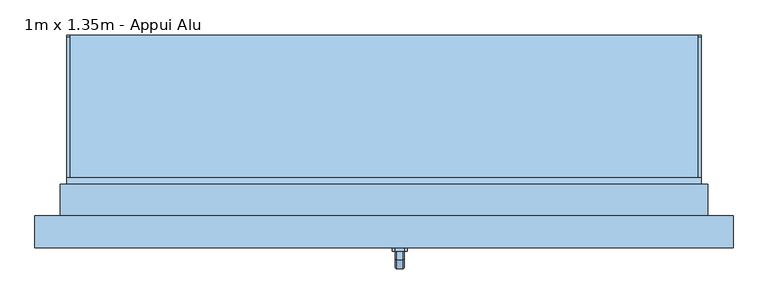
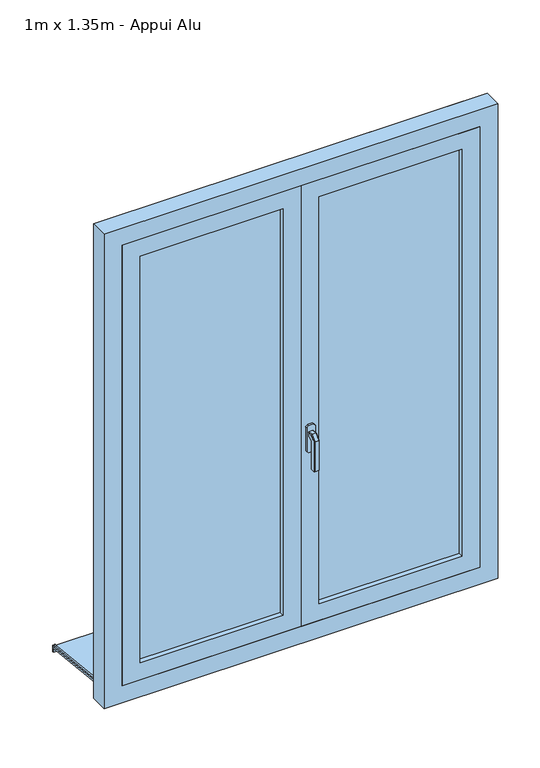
"""IFC4 building model written with IfcOpenShell, lengths in millimetres: window geometry, 2 Vantaux - Droits : 1m x 1.35m - Appui Alu."""

from ifc_helpers import new_model, si_unit, point, frame, frame_2d, origin, place, context, project, spatial, polyline, circle_curve, trimmed, segment, composite_curve, outline, extrude, faceted_brep, source, transform, mapped, element, save


def window_1m_x_1_35m_appui_alu_10ebf275(model_context):
    return source(origin(), model_context, "Body", "SolidModel", [
        faceted_brep([(30.6460097, -166.0, 1422.0339292), (32.0339292, -166.0, 1420.6460097), (32.0339292, -166.0, 1409.3323012), (30.6676988, -166.0, 1407.9660708), (19.3323012, -166.0, 1407.9660708), (17.9660708, -166.0, 1409.3323012), (17.9660708, -166.0, 1420.6460097), (19.3539903, -166.0, 1422.0339292), (30.6460097, -178.9135489, 1422.0339292), (32.0339292, -178.3386538, 1420.6460097), (32.0339292, -191.6460097, 1407.3386538), (32.0339292, -191.6460097, 1320.0), (32.0339292, -180.3323012, 1320.0), (32.0339292, -180.3323012, 1402.6523623), (32.0339292, -173.6523623, 1409.3323012), (30.6676988, -173.0864511, 1407.9660708), (19.3323012, -173.0864511, 1407.9660708), (17.9660708, -173.6523623, 1409.3323012), (17.9660708, -180.3323012, 1402.6523623), (17.9660708, -180.3323012, 1320.0), (17.9660708, -191.6460097, 1320.0), (17.9660708, -191.6460097, 1407.3386538), (17.9660708, -178.3386538, 1420.6460097), (19.3539903, -178.9135489, 1422.0339292), (30.6460097, -193.0339292, 1407.9135489), (30.6676988, -178.9660708, 1402.0864511), (19.3323012, -178.9660708, 1402.0864511), (19.3539903, -193.0339292, 1407.9135489), (30.6460097, -193.0339292, 1320.0), (19.3539903, -193.0339292, 1320.0), (19.3323012, -178.9660708, 1320.0), (30.6676988, -178.9660708, 1320.0)], [[[0, 1, 2, 3, 4, 5, 6, 7]], [[1, 0, 8, 9]], [[2, 1, 9, 10, 11, 12, 13, 14]], [[3, 2, 14, 15]], [[4, 3, 15, 16]], [[5, 4, 16, 17]], [[6, 5, 17, 18, 19, 20, 21, 22]], [[7, 6, 22, 23]], [[0, 7, 23, 8]], [[9, 8, 24, 10]], [[15, 14, 13, 25]], [[16, 15, 25, 26]], [[17, 16, 26, 18]], [[23, 22, 21, 27]], [[8, 23, 27, 24]], [[28, 29, 20, 19, 30, 31, 12, 11]], [[10, 24, 28, 11]], [[25, 13, 12, 31]], [[26, 25, 31, 30]], [[18, 26, 30, 19]], [[27, 21, 20, 29]], [[24, 27, 29, 28]]]),
        extrude(outline(polyline([(1440.0, 32.0), (1440.0, 18.0), (1435.0, 13.0), (1365.0, 13.0), (1360.0, 18.0), (1360.0, 32.0), (1365.0, 37.0), (1435.0, 37.0), (1440.0, 32.0)])), frame((0.0, -166.0, 0.0), z_axis=(0.0, 1.0, 0.0), x_axis=(0.0, 0.0, 1.0)), (0.0, 0.0, 1.0), 6.0),
        extrude(outline(polyline([(175.0, 763.4536318), (175.0, 747.8979153), (170.0, 748.4234365), (170.0, 758.7239412), (-80.0, 785.0), (-80.0, 800.0), (-75.0, 800.0), (-75.0, 789.7296906), (175.0, 763.4536318)])), frame((-500.0, 0.0, 0.0), z_axis=(1.0, 0.0, 0.0), x_axis=(0.0, 1.0, 0.0)), (0.0, 0.0, 1.0), 1000.0),
        extrude(outline(composite_curve([segment(polyline([(175.0, 763.4536318), (-75.0, 789.7296906), (-75.0, 794.757232), (171.4181139, 768.8576446)]), True, "CONTINUOUS"), segment(trimmed(circle_curve(frame_2d((171.0, 764.879557)), 4.0), [point((171.4181139, 768.8576446))], [point((175.0, 764.879557))], False, "CARTESIAN"), True, "CONTINUOUS"), segment(polyline([(175.0, 764.879557), (175.0, 763.4536318)]), True, "CONTINUOUS")], self_intersect=False)), frame((-500.0, 0.0, 0.0), z_axis=(1.0, 0.0, 0.0), x_axis=(0.0, 1.0, 0.0)), (0.0, 0.0, 1.0), 5.0),
        extrude(outline(composite_curve([segment(polyline([(175.0, 763.4536318), (-75.0, 789.7296906), (-75.0, 794.757232), (171.4181139, 768.8576446)]), True, "CONTINUOUS"), segment(trimmed(circle_curve(frame_2d((171.0, 764.879557)), 4.0), [point((171.4181139, 768.8576446))], [point((175.0, 764.879557))], False, "CARTESIAN"), True, "CONTINUOUS"), segment(polyline([(175.0, 764.879557), (175.0, 763.4536318)]), True, "CONTINUOUS")], self_intersect=False)), frame((495.0, 0.0, 0.0), z_axis=(1.0, 0.0, 0.0), x_axis=(0.0, 1.0, 0.0)), (0.0, 0.0, 1.0), 5.0),
        extrude(outline(polyline([(850.0, 0.0), (2150.0, 0.0), (2150.0, -500.0), (850.0, -500.0), (850.0, 0.0)]), holes=[polyline([(900.0, -450.0), (2100.0, -450.0), (2100.0, -50.0), (900.0, -50.0), (900.0, -450.0)])]), frame((0.0, -160.0, 0.0), z_axis=(0.0, 1.0, 0.0), x_axis=(0.0, 0.0, 1.0)), (0.0, 0.0, 1.0), 40.0),
        extrude(outline(polyline([(50.0, -134.0), (450.0, -134.0), (450.0, -146.0), (50.0, -146.0), (50.0, -134.0)])), frame((0.0, 0.0, 900.0), z_axis=(0.0, 0.0, 1.0), x_axis=(1.0, 0.0, 0.0)), (0.0, 0.0, 1.0), 1200.0),
        extrude(outline(polyline([(-450.0, -134.0), (-50.0, -134.0), (-50.0, -146.0), (-450.0, -146.0), (-450.0, -134.0)])), frame((0.0, 0.0, 900.0), z_axis=(0.0, 0.0, 1.0), x_axis=(1.0, 0.0, 0.0)), (0.0, 0.0, 1.0), 1200.0),
        extrude(outline(polyline([(850.0, 500.0), (2150.0, 500.0), (2150.0, 0.0), (850.0, 0.0), (850.0, 500.0)]), holes=[polyline([(900.0, 50.0), (2100.0, 50.0), (2100.0, 450.0), (900.0, 450.0), (900.0, 50.0)])]), frame((0.0, -160.0, 0.0), z_axis=(0.0, 1.0, 0.0), x_axis=(0.0, 0.0, 1.0)), (0.0, 0.0, 1.0), 40.0),
        faceted_brep([(-550.0, -160.0, 800.0), (-550.0, -110.0, 800.0), (-500.0, -110.0, 800.0), (-500.0, -60.0, 800.0), (500.0, -60.0, 800.0), (500.0, -110.0, 800.0), (550.0, -110.0, 800.0), (550.0, -160.0, 800.0), (-550.0, -160.0, 2200.0), (-550.0, -110.0, 2200.0), (550.0, -110.0, 2200.0), (500.0, -110.0, 839.3761425), (-500.0, -110.0, 839.3761425), (-485.0, -110.0, 2135.0), (-485.0, -110.0, 865.0), (485.0, -110.0, 865.0), (485.0, -110.0, 2135.0), (-500.0, -50.0, 823.2991909), (-500.0, -50.0, 795.0), (-500.0, -60.0, 795.0), (500.0, -60.0, 795.0), (500.0, -50.0, 795.0), (500.0, -50.0, 823.2991909), (550.0, -160.0, 2200.0), (500.0, -160.0, 2150.0), (500.0, -160.0, 850.0), (-500.0, -160.0, 850.0), (-500.0, -160.0, 2150.0), (-485.0, -120.0, 2135.0), (-485.0, -120.0, 865.0), (485.0, -120.0, 865.0), (485.0, -120.0, 2135.0), (500.0, -120.0, 2150.0), (-500.0, -120.0, 2150.0), (-500.0, -120.0, 850.0), (500.0, -120.0, 850.0)], [[[0, 1, 2, 3, 4, 5, 6, 7]], [[1, 0, 8, 9]], [[1, 9, 10, 6, 5, 11, 12, 2], [13, 14, 15, 16]], [[12, 17, 18, 19, 3, 2]], [[3, 19, 20, 4]], [[4, 20, 21, 22, 11, 5]], [[6, 10, 23, 7]], [[0, 7, 23, 8], [24, 25, 26, 27]], [[13, 28, 29, 14]], [[29, 30, 15, 14]], [[31, 16, 15, 30]], [[17, 12, 11, 22]], [[32, 33, 34, 35], [28, 31, 30, 29]], [[34, 33, 27, 26]], [[26, 25, 35, 34]], [[24, 32, 35, 25]], [[18, 17, 22, 21]], [[19, 18, 21, 20]], [[13, 16, 31, 28]], [[33, 32, 24, 27]], [[10, 9, 8, 23]]]),
        extrude(outline(polyline([(800.0, -510.0), (800.0, -500.0), (2150.0, -500.0), (2150.0, 500.0), (800.0, 500.0), (800.0, 510.0), (2160.0, 510.0), (2160.0, -510.0), (800.0, -510.0)])), frame((0.0, -110.0, 0.0), z_axis=(0.0, 1.0, 0.0), x_axis=(0.0, 0.0, 1.0)), (0.0, 0.0, 1.0), 50.0),
        extrude(outline(polyline([(20.0, -112.0), (20.0, -120.0), (-20.0, -120.0), (-20.0, -112.0), (20.0, -112.0)])), frame((0.0, 0.0, 865.0), z_axis=(0.0, 0.0, 1.0), x_axis=(1.0, 0.0, 0.0)), (0.0, 0.0, 1.0), 1270.0),
    ])


if __name__ == "__main__":
    model = new_model("IFC4")
    model_context = context("Model", 3, world=origin())
    ifc_project = project(units=[si_unit("LENGTHUNIT", "METRE", prefix="MILLI")], contexts=[model_context])
    site = spatial("IfcSite", under=ifc_project)
    building = spatial("IfcBuilding", under=site)
    placement = place(None, origin())
    window_1m_x_1_35m_appui_alu_shape = window_1m_x_1_35m_appui_alu_10ebf275(model_context)
    element("IfcWindow", 1, ObjectType="2 Vantaux - Droits : 1m x 1.35m - Appui Alu", at=placement, inside=building, context=model_context, shape_type="MappedRepresentation", body=[
        mapped(window_1m_x_1_35m_appui_alu_shape, transform((0.0, 0.0, 0.0), x_axis=(1.0, 0.0, 0.0), y_axis=(0.0, 1.0, 0.0), z_axis=(0.0, 0.0, 1.0))),
    ])
    save(model, "model.ifc")
